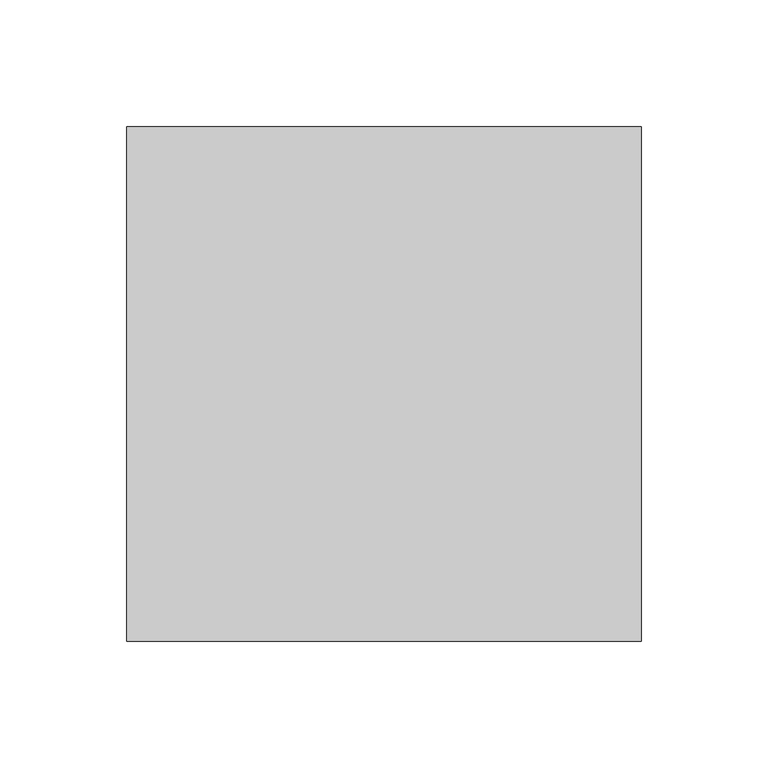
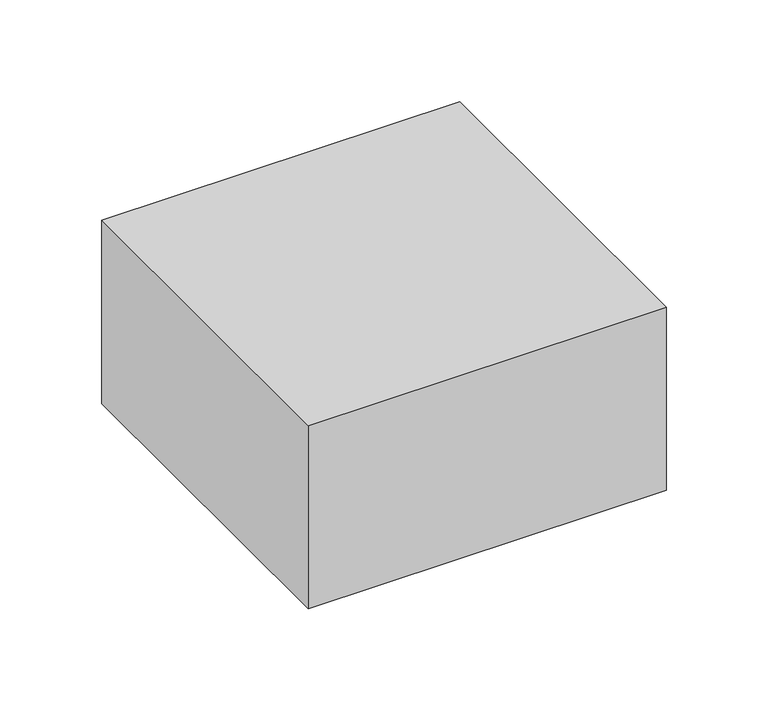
"""IFC4 building model written with IfcOpenShell, lengths in millimetres: proxy geometry, Placeholder_Polyseam : Placeholder_Polyseam."""

from ifc_helpers import new_model, si_unit, origin, origin_with_axes, place, context, project, spatial, polyline, outline, extrude, source, transform, mapped, element, save


def generic_models_73243fc5(model_context):
    return source(origin(), model_context, "Body", "SweptSolid", [
        extrude(outline(polyline([(-101.6, 101.6), (101.6, 101.6), (101.6, -101.6), (-101.6, -101.6), (-101.6, 101.6)])), origin_with_axes(), (0.0, 0.0, 1.0), 110.0),
    ])


if __name__ == "__main__":
    model = new_model("IFC4")
    model_context = context("Model", 3, world=origin())
    ifc_project = project(units=[si_unit("LENGTHUNIT", "METRE", prefix="MILLI")], contexts=[model_context])
    site = spatial("IfcSite", under=ifc_project)
    building = spatial("IfcBuilding", under=site)
    placement = place(None, origin())
    generic_models_shape = generic_models_73243fc5(model_context)
    element("IfcBuildingElementProxy", 1, Name="Placeholder_Polyseam : Placeholder_Polyseam", ObjectType="Placeholder_Polyseam : Placeholder_Polyseam", at=placement, inside=building, context=model_context, shape_type="MappedRepresentation", body=[
        mapped(generic_models_shape, transform((0.0, 0.0, 0.0), x_axis=(1.0, 0.0, 0.0), y_axis=(0.0, 1.0, 0.0), z_axis=(0.0, 0.0, 1.0))),
    ])
    save(model, "model.ifc")
